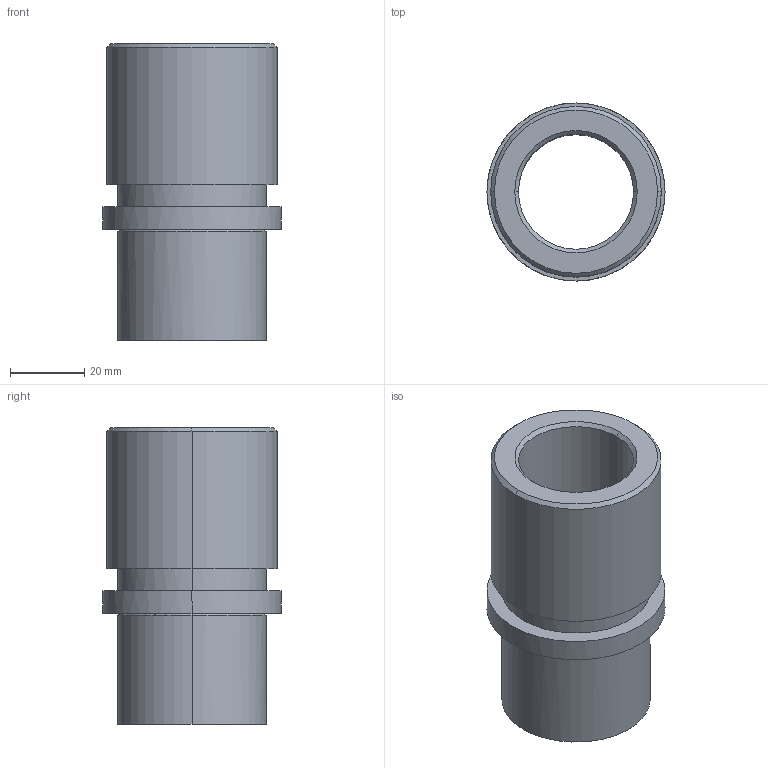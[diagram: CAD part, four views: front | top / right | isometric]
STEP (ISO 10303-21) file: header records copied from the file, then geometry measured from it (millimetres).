
FILE_DESCRIPTION(('CATIA V5 STEP Exchange'),'2;1');
FILE_NAME('C:\Users\Utente\Desktop\IO LAVORO\3D X SITO CF\X SITO\734\734-25.stp','2021-01-16T19:06:19+00:00',('none'),('none'),'CATIA Version 5 Release 20 GA (IN-10)','CATIA V5 STEP AP203','none');
FILE_SCHEMA(('CONFIG_CONTROL_DESIGN'));
Length unit declared in the file: millimetre
Products named in the file (1): 734-25
Assembly tree (1 placements, depth 2):
  734-25
    #58
Bounding box: 48 x 48 x 80 mm (x, y, z)
Volume: 58590.3 mm3; surface area: 21635.1 mm2
Topology: 1 solids, 1 shells, 25 faces, 50 edges, 30 vertices
Faces by surface type: cylinder 10, cone 6, plane 5, torus 4
Entity records: 851 total; most frequent: CARTESIAN_POINT 282, ORIENTED_EDGE 100, DIRECTION 96, AXIS2_PLACEMENT_3D 53, EDGE_CURVE 50, EDGE_LOOP 30, VERTEX_POINT 30, CIRCLE 26
